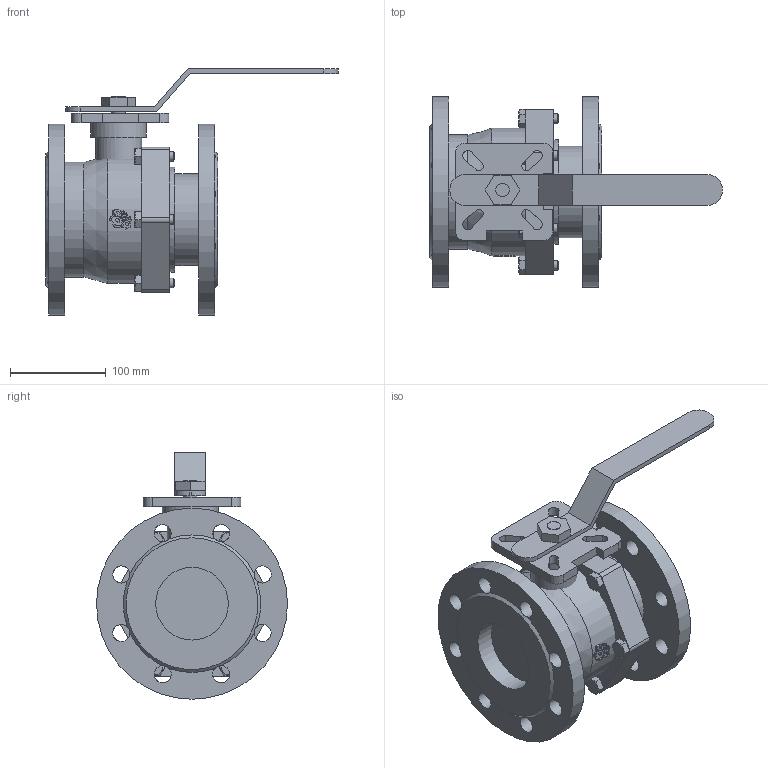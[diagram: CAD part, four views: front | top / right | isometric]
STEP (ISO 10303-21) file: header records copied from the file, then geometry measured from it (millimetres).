
FILE_DESCRIPTION(('STEP AP203'), '1');
FILE_NAME('3D_7528-080-16', '', ('UNSPECIFIED'), ('UNSPECIFIED'), 'C3D Converter', 'C3D Toolkit', '');
FILE_SCHEMA(('CONFIG_CONTROL_DESIGN'));
Length unit declared in the file: millimetre
Bounding box: 306.17 x 200 x 258 mm (x, y, z)
Volume: 3897647.3 mm3; surface area: 428946.7 mm2
Topology: 25 solids, 25 shells, 1042 faces, 3055 edges, 2060 vertices
Faces by surface type: plane 952, cylinder 63, cone 15, torus 12
Full cylindrical faces by diameter (mm): 10 x12, 14 x2, 18 x16, 48.342 x1, 58.342 x1, 76 x2, 80 x1, 96 x1, 109.56 x1, 120 x1, 133.554 x1, 200 x2
Entity records: 45015 total; most frequent: CARTESIAN_POINT 8736, ORIENTED_EDGE 5974, DIRECTION 5285, EDGE_CURVE 2987, LINE 2653, VECTOR 2653, VERTEX_POINT 2060, AXIS2_PLACEMENT_3D 1316
